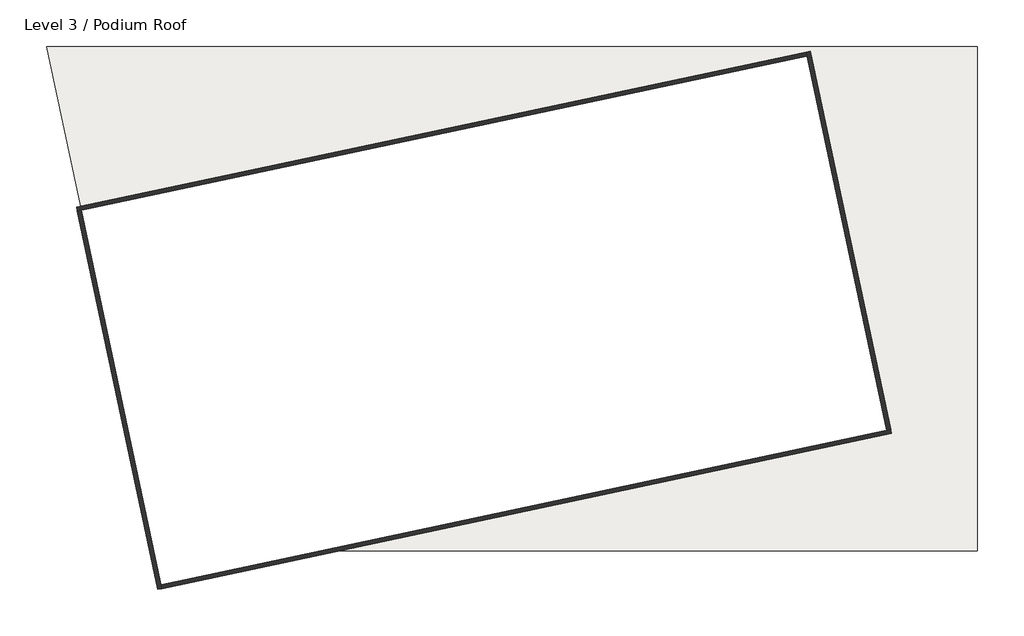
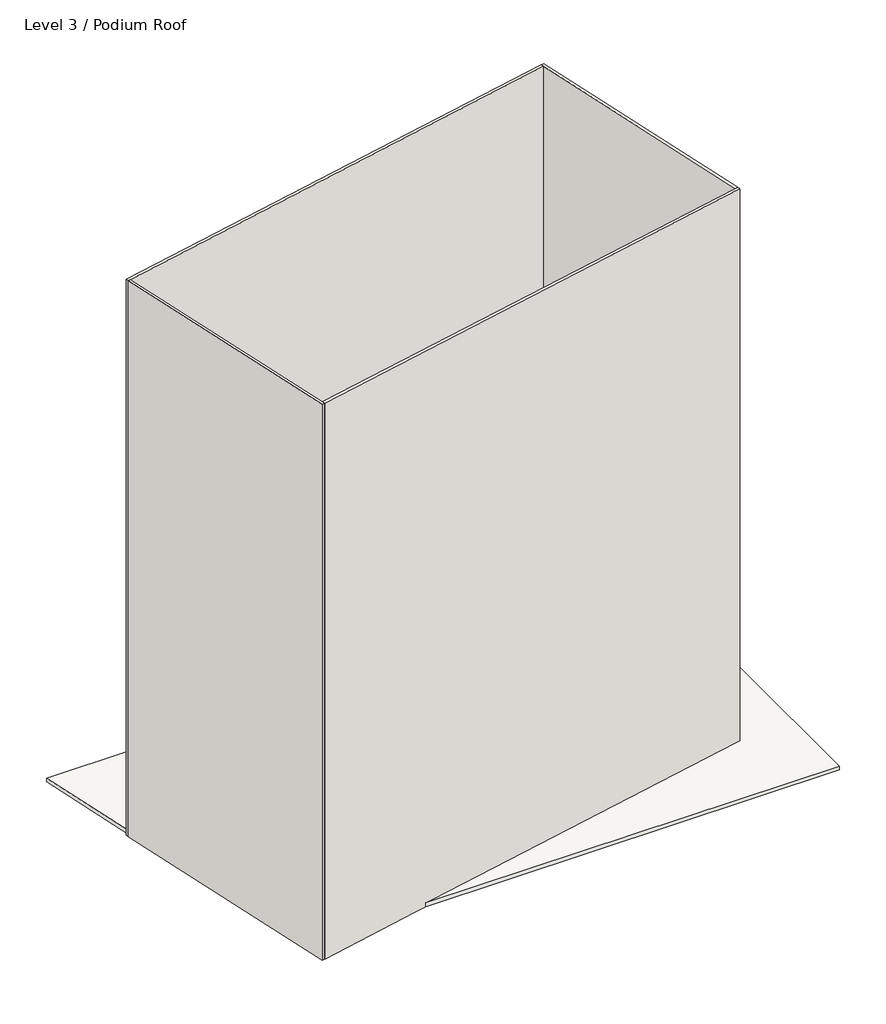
# One storey: 4 walls, 1 roof.
"""IFC4 building model written with IfcOpenShell, lengths in millimetres."""

from ifc_helpers import new_model, si_unit, origin, place, context, project, spatial, faceted_brep, element, save

model = new_model("IFC4")

# Units and contexts
model_context = context("Model", 3, world=origin())
ifc_project = project(units=[si_unit("LENGTHUNIT", "METRE", prefix="MILLI")], contexts=[model_context])

# Site, building, storey
site = spatial("IfcSite", under=ifc_project)
building = spatial("IfcBuilding", under=site)
storey = spatial("IfcBuildingStorey", under=building, Name="Level 3 / Podium Roof", Elevation=7315.2)

# Roof
placement = place(None, origin())
element("IfcRoof", 1, ObjectType="Generic - 12\"", at=placement, inside=storey, context=model_context, shape_type="Brep", body=[
    faceted_brep([(23188.4344155, -10294.2296496, 7315.2), (-8780.1865025, -10294.2296496, 7315.2), (18875.1889752, -4415.8981264, 7315.2), (18832.9413197, -4217.1385339, 7315.2), (14798.2902123, 14764.4025469, 7315.2), (14599.5306199, 14722.1548913, 7315.2), (-21773.474802, 6990.8339212, 7315.2), (-23476.7620409, 15004.1703504, 7315.2), (23188.4344155, 15004.1703504, 7315.2), (-8780.1865025, -10294.2296496, 7620.0), (23188.4344155, -10294.2296496, 7620.0), (23188.4344155, 15004.1703504, 7620.0), (-23476.7620409, 15004.1703504, 7620.0), (-21773.474802, 6990.8339212, 7620.0), (14798.2902123, 14764.4025469, 7620.0), (18875.1889752, -4415.8981264, 7620.0)], [[[0, 1, 2, 3, 4, 5, 6, 7, 8]], [[9, 10, 11, 12, 13, 14, 15]], [[10, 9, 1, 0]], [[11, 10, 0, 8]], [[12, 11, 8, 7]], [[13, 12, 7, 6]], [[14, 13, 6, 5, 4]], [[15, 14, 4, 3, 2]], [[9, 15, 2, 1]]]),
])

# Walls
element("IfcWall", 2, ObjectType="Generic - 8\"", at=placement, inside=storey, context=model_context, shape_type="Brep", body=[
    faceted_brep([(-21929.9867389, 6749.8266732, 7315.2), (-21731.2271464, 6792.0743288, 7315.2), (14641.7782754, 14523.3952988, 7315.2), (14641.7782754, 14523.3952988, 52730.4), (-21731.2271464, 6792.0743288, 52730.4), (-21929.9867389, 6749.8266732, 52730.4), (-21972.2343944, 6948.5862657, 52730.4), (14599.5306199, 14722.1548913, 52730.4), (14599.5306199, 14722.1548913, 7620.0), (14599.5306199, 14722.1548913, 7315.2), (-21773.474802, 6990.8339212, 7315.2), (-21972.2343944, 6948.5862657, 7315.2), (-21972.2343944, 6948.5862657, 7924.8), (-21951.1105667, 6849.2064694, 7315.2)], [[[0, 1, 2, 3, 4, 5]], [[6, 7, 8, 9, 10, 11, 12]], [[2, 1, 0, 13, 11, 10, 9]], [[5, 4, 3, 7, 6]], [[3, 2, 9, 8, 7]], [[5, 6, 12, 11, 13, 0]]]),
])
element("IfcWall", 3, ObjectType="Generic - 8\"", at=placement, inside=storey, context=model_context, shape_type="Brep", body=[
    faceted_brep([(-17696.5760391, -12189.466752, 7315.2), (-17738.8236946, -11990.7071596, 7315.2), (-21731.2271464, 6792.0743288, 7315.2), (-21731.2271464, 6792.0743288, 52730.4), (-17738.8236946, -11990.7071596, 52730.4), (-17696.5760391, -12189.466752, 52730.4), (-17895.3356315, -12231.7144076, 7315.2), (-17895.3356315, -12231.7144076, 52730.4), (-21929.9867389, 6749.8266732, 52730.4), (-21929.9867389, 6749.8266732, 7315.2)], [[[0, 1, 2, 3, 4, 5]], [[6, 7, 8, 9]], [[2, 1, 0, 6, 9]], [[5, 4, 3, 8, 7]], [[0, 5, 7, 6]], [[2, 9, 8, 3]]]),
])
element("IfcWall", 4, ObjectType="Generic - 8\"", at=placement, inside=storey, context=model_context, shape_type="Brep", body=[
    faceted_brep([(18832.9413197, -4217.1385339, 7315.2), (18634.1817272, -4259.3861895, 7315.2), (-9757.5245213, -10294.2296496, 7315.2), (-17738.8236946, -11990.7071596, 7315.2), (-17738.8236946, -11990.7071596, 52730.4), (18634.1817272, -4259.3861895, 52730.4), (18832.9413197, -4217.1385339, 52730.4), (18832.9413197, -4217.1385339, 7620.0), (18875.1889752, -4415.8981264, 52730.4), (-17696.5760391, -12189.466752, 52730.4), (-17696.5760391, -12189.466752, 7315.2), (-9736.1673407, -10497.4296496, 7315.2), (-8780.1865025, -10294.2296496, 7315.2), (18875.1889752, -4415.8981264, 7315.2), (18875.1889752, -4415.8981264, 7620.0)], [[[0, 1, 2, 3, 4, 5, 6, 7]], [[8, 9, 10, 11, 12, 13, 14]], [[3, 2, 1, 0, 13, 12, 11, 10]], [[6, 5, 4, 9, 8]], [[6, 8, 14, 13, 0, 7]], [[4, 3, 10, 9]]]),
])
element("IfcWall", 5, ObjectType="Generic - 8\"", at=placement, inside=storey, context=model_context, shape_type="Brep", body=[
    faceted_brep([(14599.5306199, 14722.1548913, 7315.2), (14641.7782754, 14523.3952988, 7315.2), (18634.1817272, -4259.3861895, 7315.2), (18634.1817272, -4259.3861895, 52730.4), (14641.7782754, 14523.3952988, 52730.4), (14599.5306199, 14722.1548913, 52730.4), (14599.5306199, 14722.1548913, 7620.0), (18832.9413197, -4217.1385339, 7315.2), (14798.2902123, 14764.4025469, 7315.2), (14798.2902123, 14764.4025469, 7620.0), (14798.2902123, 14764.4025469, 52730.4), (18832.9413197, -4217.1385339, 52730.4), (18832.9413197, -4217.1385339, 7620.0)], [[[0, 1, 2, 3, 4, 5, 6]], [[7, 8, 9, 10, 11, 12]], [[2, 1, 0, 8, 7]], [[5, 4, 3, 11, 10]], [[5, 10, 9, 8, 0, 6]], [[3, 2, 7, 12, 11]]]),
])

save(model, "model.ifc")
